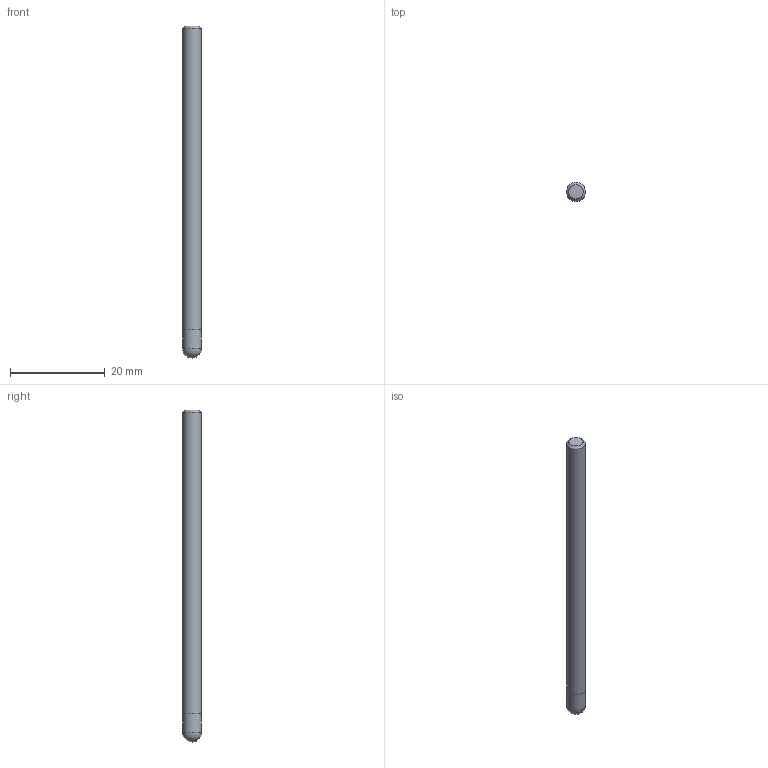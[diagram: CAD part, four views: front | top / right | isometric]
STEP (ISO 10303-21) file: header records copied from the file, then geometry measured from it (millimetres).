
FILE_DESCRIPTION((''),'2;1');
FILE_NAME('C:\Users\nsx150\AppData\Local\Temp\Mastercam 2021\98T1Q6BTT1\TEMP.step','2021-10-21T14:55:29',(''),(''),'STEP Write','Mastercam 2021 ... CNC Software, Inc.','');
FILE_SCHEMA(('AUTOMOTIVE_DESIGN'));
Length unit declared in the file: millimetre
Products named in the file (1): None
Bounding box: 4 x 4 x 70 mm (x, y, z)
Volume: 869.8 mm3; surface area: 913.3 mm2
Topology: 2 solids, 2 shells, 7 faces, 10 edges, 6 vertices
Faces by surface type: plane 3, cylinder 2, sphere 1, cone 1
Full cylindrical faces by diameter (mm): 4 x2
Entity records: 169 total; most frequent: DIRECTION 28, CARTESIAN_POINT 19, AXIS2_PLACEMENT_3D 14, ORIENTED_EDGE 10, EDGE_LOOP 10, STYLED_ITEM 10, ADVANCED_FACE 7, VERTEX_POINT 5
